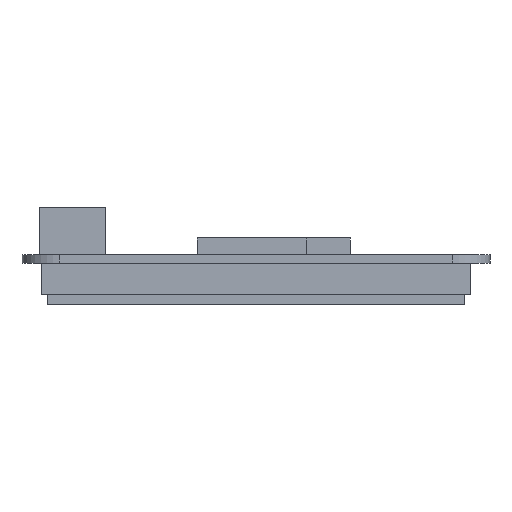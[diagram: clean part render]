
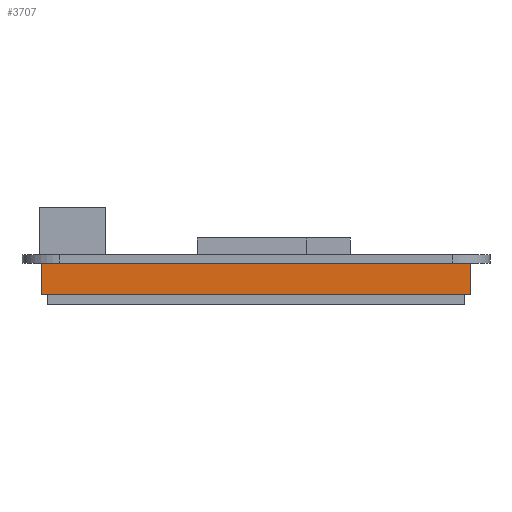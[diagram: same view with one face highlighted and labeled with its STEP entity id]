
A CAD part, left-side view. The second image highlights one B-rep face of the part: STEP entity #3707.
In plain terms, the highlighted planar face has unit normal (-1, 0, 0).
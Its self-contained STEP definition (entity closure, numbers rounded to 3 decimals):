
#42=DIRECTION('',(0.,1.,0.));
#43=VECTOR('',#42,5.08);
#44=CARTESIAN_POINT('',(553.145,272.656,-1.));
#45=LINE('',#44,#43);
#46=DIRECTION('',(0.,1.,0.));
#47=VECTOR('',#46,5.08);
#48=CARTESIAN_POINT('',(553.145,301.612,-1.));
#49=LINE('',#48,#47);
#262=DIRECTION('',(0.,1.,0.));
#263=VECTOR('',#262,8.481);
#264=CARTESIAN_POINT('',(553.145,264.175,-1.));
#265=LINE('',#264,#263);
#278=DIRECTION('',(0.,1.,0.));
#279=VECTOR('',#278,23.876);
#280=CARTESIAN_POINT('',(553.145,277.736,-1.));
#281=LINE('',#280,#279);
#294=DIRECTION('',(0.,1.,0.));
#295=VECTOR('',#294,8.483);
#296=CARTESIAN_POINT('',(553.145,306.692,-1.));
#297=LINE('',#296,#295);
#1082=DIRECTION('',(0.,0.,-1.));
#1083=VECTOR('',#1082,3.7);
#1084=CARTESIAN_POINT('',(553.145,315.175,-1.));
#1085=LINE('',#1084,#1083);
#1086=DIRECTION('',(0.,0.,-1.));
#1087=VECTOR('',#1086,3.7);
#1088=CARTESIAN_POINT('',(553.145,264.175,-1.));
#1089=LINE('',#1088,#1087);
#1102=DIRECTION('',(0.,1.,0.));
#1103=VECTOR('',#1102,51.);
#1104=CARTESIAN_POINT('',(553.145,264.175,-4.7));
#1105=LINE('',#1104,#1103);
#1362=CARTESIAN_POINT('',(553.145,264.175,-4.7));
#1363=VERTEX_POINT('',#1362);
#1364=CARTESIAN_POINT('',(553.145,315.175,-4.7));
#1365=VERTEX_POINT('',#1364);
#1379=CARTESIAN_POINT('',(553.145,264.175,-1.));
#1381=VERTEX_POINT('',#1379);
#1382=CARTESIAN_POINT('',(553.145,272.656,-1.));
#1383=VERTEX_POINT('',#1382);
#1384=CARTESIAN_POINT('',(553.145,277.736,-1.));
#1385=CARTESIAN_POINT('',(553.145,301.612,-1.));
#1386=VERTEX_POINT('',#1384);
#1387=VERTEX_POINT('',#1385);
#1388=CARTESIAN_POINT('',(553.145,306.692,-1.));
#1389=CARTESIAN_POINT('',(553.145,315.175,-1.));
#1390=VERTEX_POINT('',#1388);
#1391=VERTEX_POINT('',#1389);
#3690=CARTESIAN_POINT('',(553.145,264.175,-1.));
#3691=DIRECTION('',(-1.,0.,0.));
#3692=DIRECTION('',(0.,1.,0.));
#3693=AXIS2_PLACEMENT_3D('',#3690,#3691,#3692);
#3694=PLANE('',#3693);
#3695=ORIENTED_EDGE('',*,*,#1869,.F.);
#3697=ORIENTED_EDGE('',*,*,#3696,.T.);
#3699=ORIENTED_EDGE('',*,*,#3698,.T.);
#3700=ORIENTED_EDGE('',*,*,#3671,.F.);
#3701=ORIENTED_EDGE('',*,*,#1885,.F.);
#3702=ORIENTED_EDGE('',*,*,#1617,.F.);
#3703=ORIENTED_EDGE('',*,*,#1877,.F.);
#3704=ORIENTED_EDGE('',*,*,#1594,.F.);
#3705=EDGE_LOOP('',(#3695,#3697,#3699,#3700,#3701,#3702,#3703,#3704));
#3706=FACE_OUTER_BOUND('',#3705,.F.);
#1594=EDGE_CURVE('',#1383,#1386,#45,.T.);
#1617=EDGE_CURVE('',#1387,#1390,#49,.T.);
#1869=EDGE_CURVE('',#1381,#1383,#265,.T.);
#1877=EDGE_CURVE('',#1386,#1387,#281,.T.);
#1885=EDGE_CURVE('',#1390,#1391,#297,.T.);
#3671=EDGE_CURVE('',#1391,#1365,#1085,.T.);
#3696=EDGE_CURVE('',#1381,#1363,#1089,.T.);
#3698=EDGE_CURVE('',#1363,#1365,#1105,.T.);
#3707=ADVANCED_FACE('',(#3706),#3694,.T.);
